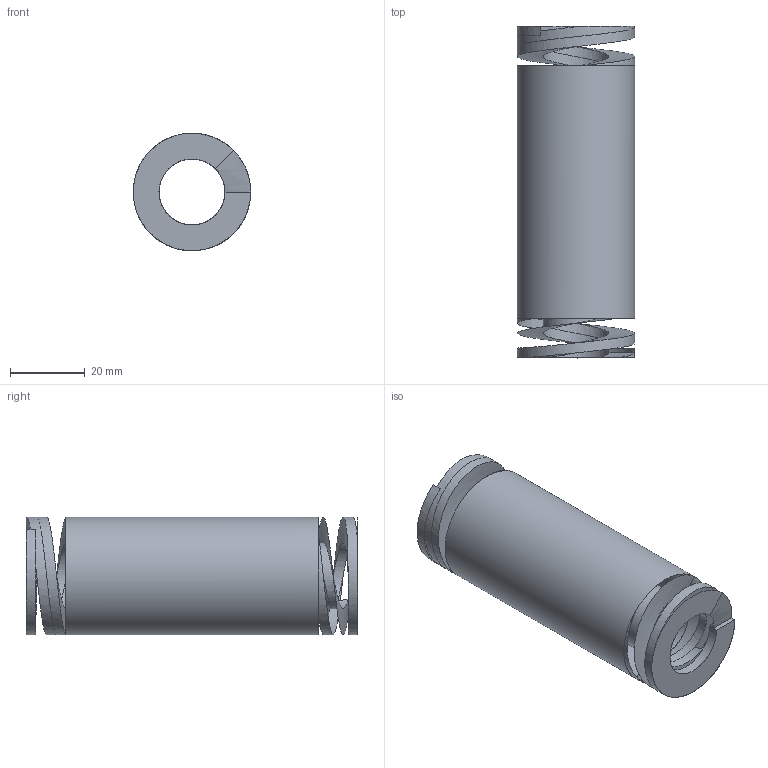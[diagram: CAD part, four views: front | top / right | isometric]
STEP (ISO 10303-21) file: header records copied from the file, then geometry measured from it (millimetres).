
FILE_DESCRIPTION(/* description */ ('Max 30% | 26.7 | 3765'),/* implementation_level */ '2;1');
FILE_NAME(/* name */ '3S32090.step',/* time_stamp */ '2026-10-07T11:43:11+02:00',/* author */ ('3S'),/* organization */ ('6,9x5,3 prostokatny'),/* preprocessor_version */ 'ST-DEVELOPER v20.1',/* originating_system */ 'Autodesk Inventor 2026',/* authorisation */ '141');
FILE_SCHEMA (('AUTOMOTIVE_DESIGN { 1 0 10303 214 3 1 1 }'));
Length unit declared in the file: millimetre
Products named in the file (1): 3S32090
Bounding box: 31.51 x 89 x 31.51 mm (x, y, z)
Volume: 43155.4 mm3; surface area: 16274.6 mm2
Topology: 1 solids, 1 shells, 22 faces, 68 edges, 42 vertices
Faces by surface type: bspline 14, plane 6, cylinder 2
Full cylindrical faces by diameter (mm): 17.699 x1, 31.501 x1
Entity records: 2778 total; most frequent: CARTESIAN_POINT 2302, ORIENTED_EDGE 120, EDGE_CURVE 60, B_SPLINE_CURVE_WITH_KNOTS 48, VERTEX_POINT 38, DIRECTION 34, EDGE_LOOP 26, FACE_OUTER_BOUND 22
